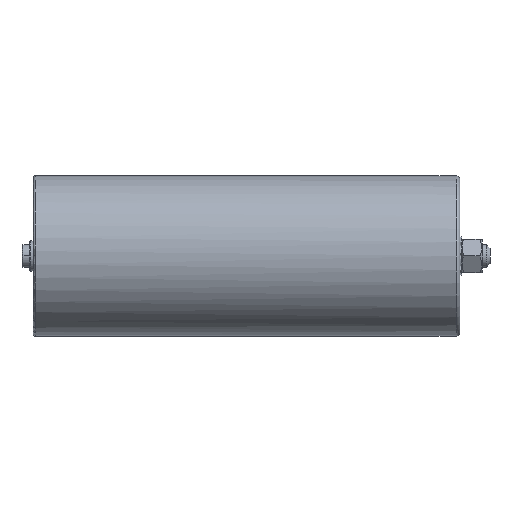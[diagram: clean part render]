
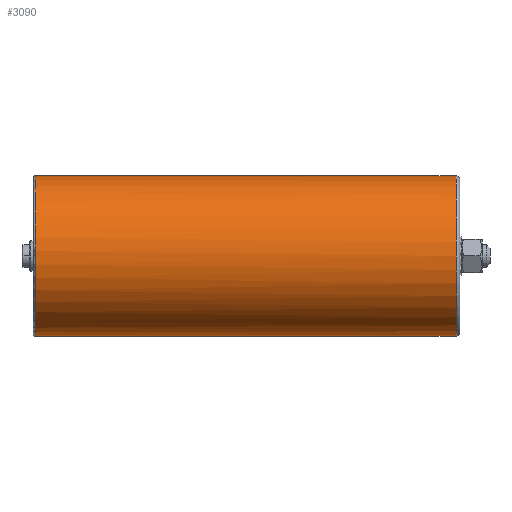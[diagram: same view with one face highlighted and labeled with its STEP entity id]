
A CAD part, left-side view. The second image highlights one B-rep face of the part: STEP entity #3090.
In plain terms, the highlighted cylindrical face has radius 42.5 mm (diameter 85 mm), a partial arc.
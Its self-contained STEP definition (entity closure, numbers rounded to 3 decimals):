
#23 = VERTEX_POINT ( 'NONE', #623 ) ;
#39 = EDGE_CURVE ( 'NONE', #23, #82, #3448, .T. ) ;
#82 = VERTEX_POINT ( 'NONE', #3526 ) ;
#142 = CARTESIAN_POINT ( 'NONE',  ( 0., 0., 0. ) ) ;
#312 = CARTESIAN_POINT ( 'NONE',  ( 0., 2., 0. ) ) ;
#345 = AXIS2_PLACEMENT_3D ( 'NONE', #803, #3300, #1111 ) ;
#597 = DIRECTION ( 'NONE',  ( 0., 1., 0. ) ) ;
#623 = CARTESIAN_POINT ( 'NONE',  ( 0., 2., -42.5 ) ) ;
#627 = CARTESIAN_POINT ( 'NONE',  ( 0., 225., -42.5 ) ) ;
#803 = CARTESIAN_POINT ( 'NONE',  ( 0., 225., 0. ) ) ;
#826 = EDGE_CURVE ( 'NONE', #3147, #2537, #2094, .T. ) ;
#982 = CARTESIAN_POINT ( 'NONE',  ( 0., 0., 42.5 ) ) ;
#1111 = DIRECTION ( 'NONE',  ( 0.585, 0., 0.811 ) ) ;
#1191 = CARTESIAN_POINT ( 'NONE',  ( 0., 225., 0. ) ) ;
#1300 = DIRECTION ( 'NONE',  ( 0., 0., -1. ) ) ;
#1357 = VECTOR ( 'NONE', #2090, 1000. ) ;
#1438 = AXIS2_PLACEMENT_3D ( 'NONE', #312, #597, #1300 ) ;
#1757 = CIRCLE ( 'NONE', #2309, 42.5 ) ;
#1828 = DIRECTION ( 'NONE',  ( 0.585, 0., 0.811 ) ) ;
#1865 = DIRECTION ( 'NONE',  ( 0., -1., 0. ) ) ;
#1898 = EDGE_CURVE ( 'NONE', #3419, #23, #2388, .T. ) ;
#2090 = DIRECTION ( 'NONE',  ( 0., -1., 0. ) ) ;
#2094 = CIRCLE ( 'NONE', #345, 42.5 ) ;
#2309 = AXIS2_PLACEMENT_3D ( 'NONE', #1191, #1865, #1828 ) ;
#2388 = LINE ( 'NONE', #3912, #1357 ) ;
#2426 = VECTOR ( 'NONE', #2905, 1000. ) ;
#2474 = ORIENTED_EDGE ( 'NONE', *, *, #1898, .T. ) ;
#2537 = VERTEX_POINT ( 'NONE', #3247 ) ;
#2568 = ORIENTED_EDGE ( 'NONE', *, *, #826, .T. ) ;
#2580 = ORIENTED_EDGE ( 'NONE', *, *, #3314, .T. ) ;
#2661 = EDGE_CURVE ( 'NONE', #3147, #82, #3870, .T. ) ;
#2905 = DIRECTION ( 'NONE',  ( 0., -1., 0. ) ) ;
#3009 = CARTESIAN_POINT ( 'NONE',  ( 0., 225., 42.5 ) ) ;
#3090 = ADVANCED_FACE ( 'NONE', ( #3677 ), #3618, .T. ) ;
#3147 = VERTEX_POINT ( 'NONE', #3009 ) ;
#3247 = CARTESIAN_POINT ( 'NONE',  ( -24.861, 225., -34.47 ) ) ;
#3300 = DIRECTION ( 'NONE',  ( 0., -1., 0. ) ) ;
#3314 = EDGE_CURVE ( 'NONE', #2537, #3419, #1757, .T. ) ;
#3362 = DIRECTION ( 'NONE',  ( 0., -1., 0. ) ) ;
#3419 = VERTEX_POINT ( 'NONE', #627 ) ;
#3448 = CIRCLE ( 'NONE', #1438, 42.5 ) ;
#3503 = AXIS2_PLACEMENT_3D ( 'NONE', #142, #3362, #3600 ) ;
#3526 = CARTESIAN_POINT ( 'NONE',  ( 0., 2., 42.5 ) ) ;
#3600 = DIRECTION ( 'NONE',  ( 0., 0., -1. ) ) ;
#3618 = CYLINDRICAL_SURFACE ( 'NONE', #3503, 42.5 ) ;
#3661 = ORIENTED_EDGE ( 'NONE', *, *, #2661, .F. ) ;
#3677 = FACE_OUTER_BOUND ( 'NONE', #3757, .T. ) ;
#3757 = EDGE_LOOP ( 'NONE', ( #3661, #2568, #2580, #2474, #4125 ) ) ;
#3870 = LINE ( 'NONE', #982, #2426 ) ;
#3912 = CARTESIAN_POINT ( 'NONE',  ( 0., 0., -42.5 ) ) ;
#4125 = ORIENTED_EDGE ( 'NONE', *, *, #39, .T. ) ;
